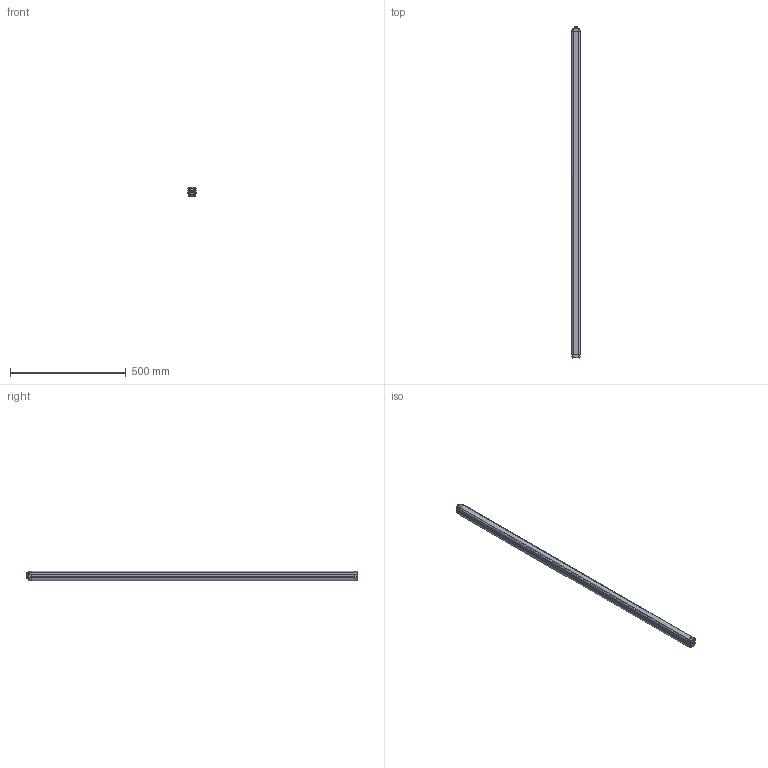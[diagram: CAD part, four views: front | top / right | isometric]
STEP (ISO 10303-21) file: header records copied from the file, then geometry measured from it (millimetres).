
FILE_DESCRIPTION((''),'2;1');
FILE_NAME('2009974','2012-01-30T',('rink'),(''),'PRO/ENGINEER BY PARAMETRIC TECHNOLOGY CORPORATION, 2011040','PRO/ENGINEER BY PARAMETRIC TECHNOLOGY CORPORATION, 2011040','');
FILE_SCHEMA(('AUTOMOTIVE_DESIGN_CC2 { 1 2 10303 214 -1 1 5 2 }'));
Products named in the file (1): 2009974
Bounding box: 35 x 1432.58 x 40 mm (x, y, z)
Volume: 1759571.5 mm3; surface area: 291190.8 mm2
Topology: 1 solids, 1 shells, 2508 faces, 6694 edges, 4046 vertices
Faces by surface type: cylinder 686, extrusion 526, plane 484, bspline 356, torus 258, sphere 166, cone 32
Entity records: 188314 total; most frequent: CARTESIAN_POINT 113275, ORIENTED_EDGE 13040, DIRECTION 8989, PRESENTATION_STYLE_ASSIGNMENT 6527, STYLED_ITEM 6522, CURVE_STYLE 6521, EDGE_CURVE 6520, VERTEX_POINT 4046
